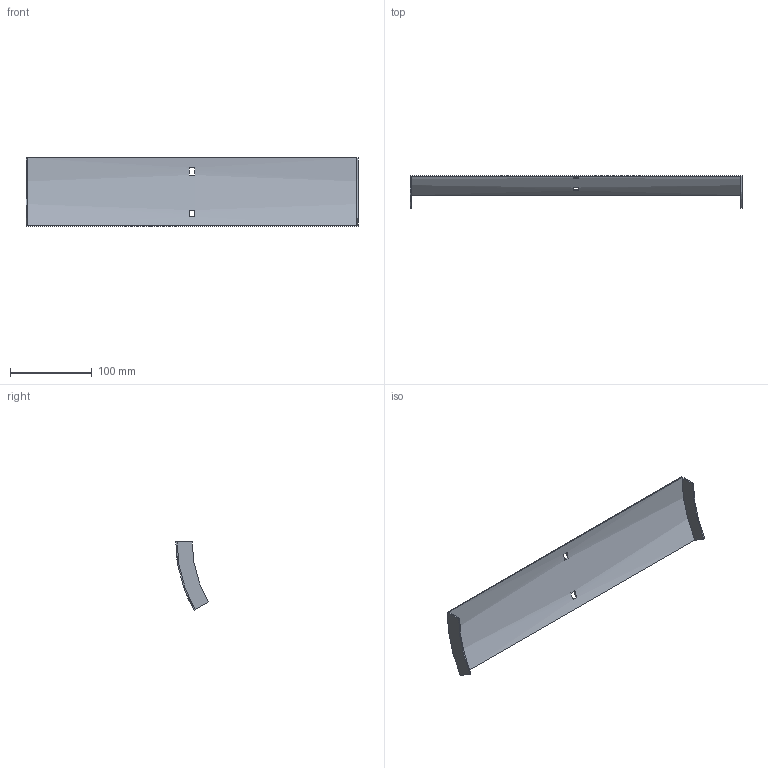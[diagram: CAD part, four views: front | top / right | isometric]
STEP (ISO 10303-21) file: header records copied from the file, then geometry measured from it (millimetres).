
FILE_DESCRIPTION (( 'STEP AP214' ), '1' );
FILE_NAME ('35N1H400.step', '2025-02-21T09:12:38', ( '' ), ( '' ), 'SwSTEP 2.0', 'SolidWorks 2023', '' );
FILE_SCHEMA (( 'AUTOMOTIVE_DESIGN' ));
Length unit declared in the file: millimetre
Products named in the file (1): 35N1H400
Bounding box: 407 x 39.69 x 83.5 mm (x, y, z)
Volume: 57507.2 mm3; surface area: 78333.8 mm2
Topology: 1 solids, 1 shells, 18 faces, 48 edges, 32 vertices
Faces by surface type: plane 14, cylinder 4
Entity records: 599 total; most frequent: DIRECTION 102, CARTESIAN_POINT 99, ORIENTED_EDGE 96, EDGE_CURVE 48, AXIS2_PLACEMENT_3D 35, VERTEX_POINT 32, VECTOR 32, LINE 32
